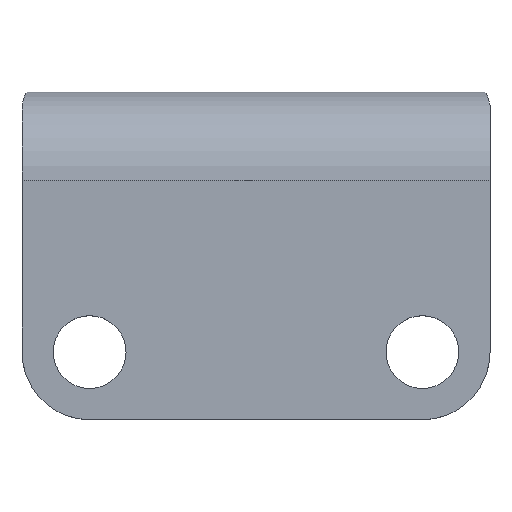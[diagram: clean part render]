
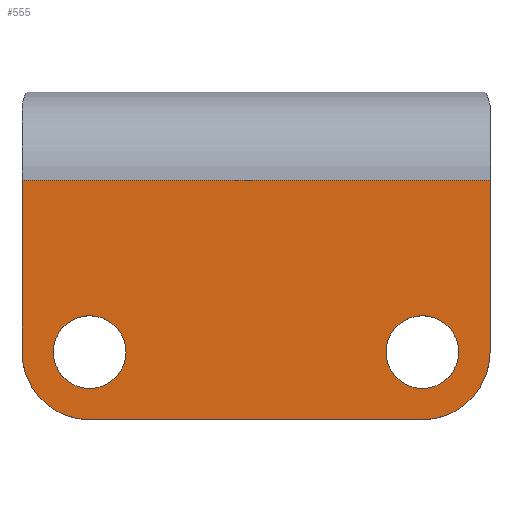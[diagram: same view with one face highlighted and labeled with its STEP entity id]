
A CAD part, top view. The second image highlights one B-rep face of the part: STEP entity #555.
In plain terms, the highlighted planar face has unit normal (0, 0, 1).
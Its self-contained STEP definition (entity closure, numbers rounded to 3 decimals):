
#46=DIRECTION('',(0.,-1.,0.));
#47=VECTOR('',#46,16.5);
#48=CARTESIAN_POINT('',(-22.5,-8.5,0.));
#49=LINE('',#48,#47);
#53=CARTESIAN_POINT('',(-16.,-25.,0.));
#54=DIRECTION('',(0.,0.,-1.));
#55=DIRECTION('',(-1.,0.,0.));
#56=AXIS2_PLACEMENT_3D('',#53,#54,#55);
#61=CARTESIAN_POINT('',(-16.,-25.,0.));
#62=DIRECTION('',(0.,0.,-1.));
#63=DIRECTION('',(1.,0.,0.));
#64=AXIS2_PLACEMENT_3D('',#61,#62,#63);
#69=CARTESIAN_POINT('',(16.,-25.,0.));
#70=DIRECTION('',(0.,0.,-1.));
#71=DIRECTION('',(-1.,0.,0.));
#72=AXIS2_PLACEMENT_3D('',#69,#70,#71);
#77=CARTESIAN_POINT('',(16.,-25.,0.));
#78=DIRECTION('',(0.,0.,-1.));
#79=DIRECTION('',(1.,0.,0.));
#80=AXIS2_PLACEMENT_3D('',#77,#78,#79);
#85=CARTESIAN_POINT('',(16.,-25.,0.));
#86=DIRECTION('',(0.,0.,1.));
#87=DIRECTION('',(0.,-1.,0.));
#88=AXIS2_PLACEMENT_3D('',#85,#86,#87);
#93=CARTESIAN_POINT('',(-16.,-25.,0.));
#94=DIRECTION('',(0.,0.,1.));
#95=DIRECTION('',(-1.,0.,0.));
#96=AXIS2_PLACEMENT_3D('',#93,#94,#95);
#101=DIRECTION('',(1.,0.,0.));
#102=VECTOR('',#101,45.);
#103=CARTESIAN_POINT('',(-22.5,-8.5,0.));
#104=LINE('',#103,#102);
#205=DIRECTION('',(1.,0.,0.));
#206=VECTOR('',#205,32.);
#207=CARTESIAN_POINT('',(-16.,-31.5,0.));
#208=LINE('',#207,#206);
#219=DIRECTION('',(0.,-1.,0.));
#220=VECTOR('',#219,16.5);
#221=CARTESIAN_POINT('',(22.5,-8.5,0.));
#222=LINE('',#221,#220);
#457=CARTESIAN_POINT('',(-22.5,-8.5,0.));
#458=CARTESIAN_POINT('',(22.5,-8.5,0.));
#459=VERTEX_POINT('',#457);
#460=VERTEX_POINT('',#458);
#461=CARTESIAN_POINT('',(-19.5,-25.,0.));
#462=CARTESIAN_POINT('',(-12.5,-25.,0.));
#463=VERTEX_POINT('',#461);
#464=VERTEX_POINT('',#462);
#465=CARTESIAN_POINT('',(12.5,-25.,0.));
#466=CARTESIAN_POINT('',(19.5,-25.,0.));
#467=VERTEX_POINT('',#465);
#468=VERTEX_POINT('',#466);
#481=CARTESIAN_POINT('',(16.,-31.5,0.));
#482=VERTEX_POINT('',#481);
#483=CARTESIAN_POINT('',(22.5,-25.,0.));
#484=VERTEX_POINT('',#483);
#485=CARTESIAN_POINT('',(-22.5,-25.,0.));
#486=CARTESIAN_POINT('',(-16.,-31.5,0.));
#487=VERTEX_POINT('',#485);
#488=VERTEX_POINT('',#486);
#526=CARTESIAN_POINT('',(-22.5,-8.5,0.));
#527=DIRECTION('',(0.,0.,1.));
#528=DIRECTION('',(0.,-1.,0.));
#529=AXIS2_PLACEMENT_3D('',#526,#527,#528);
#530=PLANE('',#529);
#532=ORIENTED_EDGE('',*,*,#531,.F.);
#534=ORIENTED_EDGE('',*,*,#533,.F.);
#535=ORIENTED_EDGE('',*,*,#516,.F.);
#536=ORIENTED_EDGE('',*,*,#506,.F.);
#538=ORIENTED_EDGE('',*,*,#537,.T.);
#540=ORIENTED_EDGE('',*,*,#539,.T.);
#541=EDGE_LOOP('',(#532,#534,#535,#536,#538,#540));
#542=FACE_OUTER_BOUND('',#541,.F.);
#544=ORIENTED_EDGE('',*,*,#543,.F.);
#546=ORIENTED_EDGE('',*,*,#545,.F.);
#547=EDGE_LOOP('',(#544,#546));
#548=FACE_BOUND('',#547,.F.);
#550=ORIENTED_EDGE('',*,*,#549,.F.);
#552=ORIENTED_EDGE('',*,*,#551,.F.);
#553=EDGE_LOOP('',(#550,#552));
#554=FACE_BOUND('',#553,.F.);
#555=ADVANCED_FACE('',(#542,#548,#554),#530,.T.);
#57=CIRCLE('',#56,3.5);
#65=CIRCLE('',#64,3.5);
#73=CIRCLE('',#72,3.5);
#81=CIRCLE('',#80,3.5);
#89=CIRCLE('',#88,6.5);
#97=CIRCLE('',#96,6.5);
#506=EDGE_CURVE('',#459,#487,#49,.T.);
#516=EDGE_CURVE('',#487,#488,#97,.T.);
#531=EDGE_CURVE('',#482,#484,#89,.T.);
#533=EDGE_CURVE('',#488,#482,#208,.T.);
#537=EDGE_CURVE('',#459,#460,#104,.T.);
#539=EDGE_CURVE('',#460,#484,#222,.T.);
#543=EDGE_CURVE('',#467,#468,#73,.T.);
#545=EDGE_CURVE('',#468,#467,#81,.T.);
#549=EDGE_CURVE('',#463,#464,#57,.T.);
#551=EDGE_CURVE('',#464,#463,#65,.T.);
